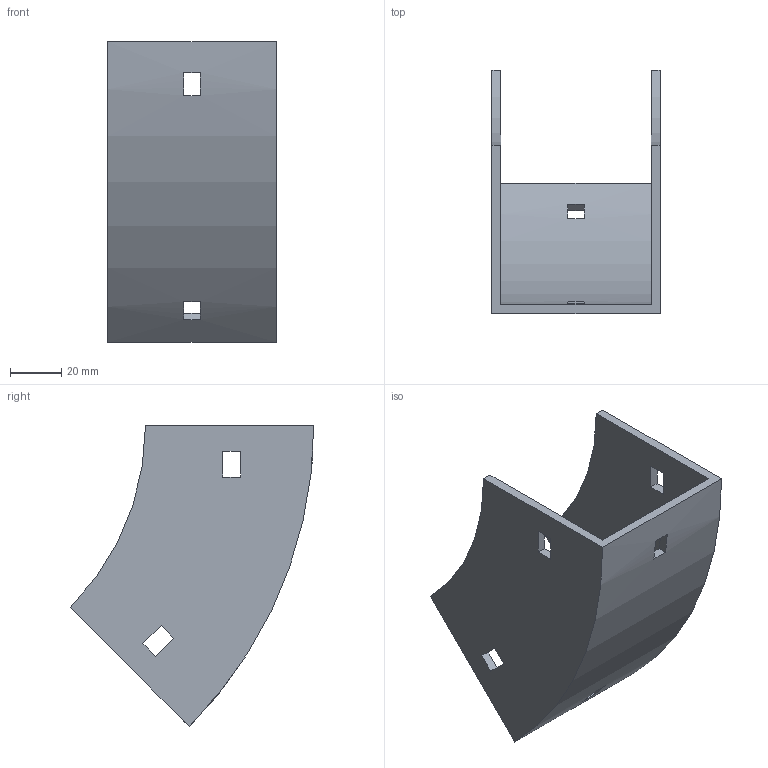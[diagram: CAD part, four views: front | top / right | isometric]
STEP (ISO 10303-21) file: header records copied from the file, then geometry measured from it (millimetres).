
FILE_DESCRIPTION (( 'STEP AP214' ), '1' );
FILE_NAME ('31B1H065.step', '2025-02-21T09:46:57', ( '' ), ( '' ), 'SwSTEP 2.0', 'SolidWorks 2023', '' );
FILE_SCHEMA (( 'AUTOMOTIVE_DESIGN' ));
Length unit declared in the file: millimetre
Products named in the file (1): 31B1H065
Bounding box: 65.5 x 94.79 x 117.03 mm (x, y, z)
Volume: 72745 mm3; surface area: 44148.6 mm2
Topology: 1 solids, 1 shells, 34 faces, 96 edges, 64 vertices
Faces by surface type: plane 30, cylinder 4
Entity records: 1143 total; most frequent: CARTESIAN_POINT 195, ORIENTED_EDGE 192, DIRECTION 182, EDGE_CURVE 96, LINE 80, VECTOR 80, VERTEX_POINT 64, AXIS2_PLACEMENT_3D 51
